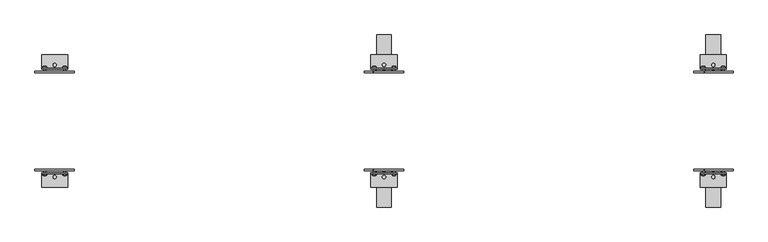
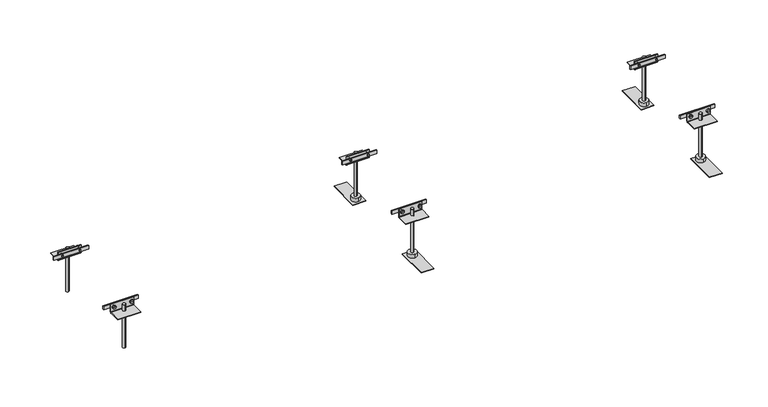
"""IFC4 building model written with IfcOpenShell, lengths in millimetres: proxy geometry, Electrical_Installation_Hager_BKF-Trunking-System-With-Flexible-Screed-Casing-For-Dry-Cleaned-Floors : Nominal Size 250  Length 2.4 m."""

from ifc_helpers import new_model, si_unit, point, frame, frame_2d, origin, place, context, project, spatial, polyline, circle_curve, ellipse_curve, trimmed, segment, composite_curve, outline, extrude, source, transform, mapped, element, save
from ifc_brep_helpers import plane_surface, cylinder_surface, revolved_surface, advanced_brep


def electrical_fixtures_df6a39a7(model_context):
    return source(origin(), model_context, "Body", "SolidModel", [
        advanced_brep(
        [(1629.0575247, -131.6418922, 3.3), (1619.4769168, -131.6418922, 3.3), (1619.4769168, -129.7, 3.3), (1629.0575247, -129.7, 3.3), (1621.7042517, -129.7, 3.3), (1626.8301898, -129.7, 3.3), (1621.7042517, -117.7, 3.3), (1626.8301898, -117.7, 3.3), (1624.2672208, -117.7, 3.3), (1624.2672208, -133.3479209, 3.3)],
        [
            (0, 1, circle_curve(frame((1624.2672208, -131.6418922, 3.3), z_axis=(0.0, 1.0, 0.0), x_axis=(-1.0, 0.0, 0.0)), 4.790304)),
            (1, 2),
            (2, 3, circle_curve(frame((1624.2672208, -129.7, 3.3), z_axis=(0.0, -1.0, 0.0), x_axis=(-1.0, 0.0, 0.0)), 4.790304)),
            (3, 0),
            (1, 0, circle_curve(frame((1624.2672208, -131.6418922, 3.3), z_axis=(0.0, 1.0, 0.0), x_axis=(-1.0, 0.0, 0.0)), 4.790304)),
            (3, 2, circle_curve(frame((1624.2672208, -129.7, 3.3), z_axis=(0.0, -1.0, 0.0), x_axis=(-1.0, 0.0, 0.0)), 4.790304)),
            (2, 4),
            (4, 5, circle_curve(frame((1624.2672208, -129.7, 3.3), z_axis=(0.0, -1.0, 0.0), x_axis=(-1.0, 0.0, 0.0)), 2.562969)),
            (5, 3),
            (5, 4, circle_curve(frame((1624.2672208, -129.7, 3.3), z_axis=(0.0, -1.0, 0.0), x_axis=(-1.0, 0.0, 0.0)), 2.562969)),
            (4, 6),
            (6, 7, circle_curve(frame((1624.2672208, -117.7, 3.3), z_axis=(0.0, -1.0, 0.0), x_axis=(-1.0, 0.0, 0.0)), 2.562969)),
            (7, 5),
            (7, 6, circle_curve(frame((1624.2672208, -117.7, 3.3), z_axis=(0.0, -1.0, 0.0), x_axis=(-1.0, 0.0, 0.0)), 2.562969)),
            (6, 8),
            (8, 7),
            (9, 1, circle_curve(frame((1624.2353142, -125.8592246, 3.3), z_axis=(0.0, 0.0, -1.0), x_axis=(-1.0, 0.0, 0.0)), 7.4887643)),
            (0, 9, circle_curve(frame((1624.2991274, -125.8592246, 3.3), z_axis=(0.0, 0.0, -1.0), x_axis=(1.0, 0.0, 0.0)), 7.4887643)),
        ],
        [
            cylinder_surface(frame((1624.2672208, -129.2950786, 3.3), z_axis=(0.0, -1.0, 0.0), x_axis=(-1.0, 0.0, 0.0)), 4.790304),
            plane_surface(frame((1624.2672208, -129.7, 3.3), z_axis=(0.0, 1.0, 0.0), x_axis=(-1.0, 0.0, 0.0))),
            cylinder_surface(frame((1624.2672208, -129.2950786, 3.3), z_axis=(0.0, -1.0, 0.0), x_axis=(-1.0, 0.0, 0.0)), 2.562969),
            plane_surface(frame((1624.2672208, -117.7, 3.3), z_axis=(0.0, 1.0, 0.0), x_axis=(-1.0, 0.0, 0.0))),
            revolved_surface(trimmed(ellipse_curve(frame((1624.2353142, -125.8592246, 3.3), z_axis=(0.0, 0.0, 1.0), x_axis=(-1.0, 0.0, 0.0)), 7.4887643, 7.4887643), [point((1619.4769168, -131.6418922, 3.3))], [point((1624.2672208, -133.3479209, 3.3))], True, "CARTESIAN"), (1624.2672208, -129.2950786, 3.3), (0.0, -1.0, 0.0)),
        ],
        [
            (0, [[1, 2, 3, 4]]),
            (0, [[5, -4, 6, -2]]),
            (1, [[-3, 7, 8, 9]]),
            (1, [[-6, -9, 10, -7]]),
            (2, [[-8, 11, 12, 13]]),
            (2, [[-10, -13, 14, -11]]),
            (3, [[-12, 15, 16]]),
            (3, [[-14, -16, -15]]),
            (4, [[17, -1, 18]]),
            (4, [[-18, -5, -17]]),
        ],
    ),
        advanced_brep(
        [(1580.790304, -131.6418922, 3.3), (1571.209696, -131.6418922, 3.3), (1571.209696, -129.7, 3.3), (1580.790304, -129.7, 3.3), (1573.437031, -129.7, 3.3), (1578.562969, -129.7, 3.3), (1573.437031, -117.7, 3.3), (1578.562969, -117.7, 3.3), (1576.0, -117.7, 3.3), (1576.0, -133.3479209, 3.3)],
        [
            (0, 1, circle_curve(frame((1576.0, -131.6418922, 3.3), z_axis=(0.0, 1.0, 0.0), x_axis=(-1.0, 0.0, 0.0)), 4.790304)),
            (1, 2),
            (2, 3, circle_curve(frame((1576.0, -129.7, 3.3), z_axis=(0.0, -1.0, 0.0), x_axis=(-1.0, 0.0, 0.0)), 4.790304)),
            (3, 0),
            (1, 0, circle_curve(frame((1576.0, -131.6418922, 3.3), z_axis=(0.0, 1.0, 0.0), x_axis=(-1.0, 0.0, 0.0)), 4.790304)),
            (3, 2, circle_curve(frame((1576.0, -129.7, 3.3), z_axis=(0.0, -1.0, 0.0), x_axis=(-1.0, 0.0, 0.0)), 4.790304)),
            (2, 4),
            (4, 5, circle_curve(frame((1576.0, -129.7, 3.3), z_axis=(0.0, -1.0, 0.0), x_axis=(-1.0, 0.0, 0.0)), 2.562969)),
            (5, 3),
            (5, 4, circle_curve(frame((1576.0, -129.7, 3.3), z_axis=(0.0, -1.0, 0.0), x_axis=(-1.0, 0.0, 0.0)), 2.562969)),
            (4, 6),
            (6, 7, circle_curve(frame((1576.0, -117.7, 3.3), z_axis=(0.0, -1.0, 0.0), x_axis=(-1.0, 0.0, 0.0)), 2.562969)),
            (7, 5),
            (7, 6, circle_curve(frame((1576.0, -117.7, 3.3), z_axis=(0.0, -1.0, 0.0), x_axis=(-1.0, 0.0, 0.0)), 2.562969)),
            (6, 8),
            (8, 7),
            (9, 1, circle_curve(frame((1575.9680934, -125.8592246, 3.3), z_axis=(0.0, 0.0, -1.0), x_axis=(-1.0, 0.0, 0.0)), 7.4887643)),
            (0, 9, circle_curve(frame((1576.0319066, -125.8592246, 3.3), z_axis=(0.0, 0.0, -1.0), x_axis=(1.0, 0.0, 0.0)), 7.4887643)),
        ],
        [
            cylinder_surface(frame((1576.0, -129.2950786, 3.3), z_axis=(0.0, -1.0, 0.0), x_axis=(-1.0, 0.0, 0.0)), 4.790304),
            plane_surface(frame((1576.0, -129.7, 3.3), z_axis=(0.0, 1.0, 0.0), x_axis=(-1.0, 0.0, 0.0))),
            cylinder_surface(frame((1576.0, -129.2950786, 3.3), z_axis=(0.0, -1.0, 0.0), x_axis=(-1.0, 0.0, 0.0)), 2.562969),
            plane_surface(frame((1576.0, -117.7, 3.3), z_axis=(0.0, 1.0, 0.0), x_axis=(-1.0, 0.0, 0.0))),
            revolved_surface(trimmed(ellipse_curve(frame((1575.9680934, -125.8592246, 3.3), z_axis=(0.0, 0.0, 1.0), x_axis=(-1.0, 0.0, 0.0)), 7.4887643, 7.4887643), [point((1571.209696, -131.6418922, 3.3))], [point((1576.0, -133.3479209, 3.3))], True, "CARTESIAN"), (1576.0, -129.2950786, 3.3), (0.0, -1.0, 0.0)),
        ],
        [
            (0, [[1, 2, 3, 4]]),
            (0, [[5, -4, 6, -2]]),
            (1, [[-3, 7, 8, 9]]),
            (1, [[-6, -9, 10, -7]]),
            (2, [[-8, 11, 12, 13]]),
            (2, [[-10, -13, 14, -11]]),
            (3, [[-12, 15, 16]]),
            (3, [[-14, -16, -15]]),
            (4, [[17, -1, 18]]),
            (4, [[-18, -5, -17]]),
        ],
    ),
        advanced_brep(
        [(1629.0575247, 129.7, 3.3), (1619.4769168, 129.7, 3.3), (1619.4769168, 131.6418922, 3.3), (1629.0575247, 131.6418922, 3.3), (1626.8301898, 129.7, 3.3), (1621.7042517, 129.7, 3.3), (1626.8301898, 117.7, 3.3), (1621.7042517, 117.7, 3.3), (1624.2672208, 117.7, 3.3), (1624.2672208, 133.3479209, 3.3)],
        [
            (0, 1, circle_curve(frame((1624.2672208, 129.7, 3.3), z_axis=(0.0, 1.0, 0.0), x_axis=(-1.0, 0.0, 0.0)), 4.790304)),
            (1, 2),
            (2, 3, circle_curve(frame((1624.2672208, 131.6418922, 3.3), z_axis=(0.0, -1.0, 0.0), x_axis=(-1.0, 0.0, 0.0)), 4.790304)),
            (3, 0),
            (1, 0, circle_curve(frame((1624.2672208, 129.7, 3.3), z_axis=(0.0, 1.0, 0.0), x_axis=(-1.0, 0.0, 0.0)), 4.790304)),
            (3, 2, circle_curve(frame((1624.2672208, 131.6418922, 3.3), z_axis=(0.0, -1.0, 0.0), x_axis=(-1.0, 0.0, 0.0)), 4.790304)),
            (4, 5, circle_curve(frame((1624.2672208, 129.7, 3.3), z_axis=(0.0, 1.0, 0.0), x_axis=(-1.0, 0.0, 0.0)), 2.562969)),
            (5, 1),
            (0, 4),
            (5, 4, circle_curve(frame((1624.2672208, 129.7, 3.3), z_axis=(0.0, 1.0, 0.0), x_axis=(-1.0, 0.0, 0.0)), 2.562969)),
            (6, 7, circle_curve(frame((1624.2672208, 117.7, 3.3), z_axis=(0.0, 1.0, 0.0), x_axis=(-1.0, 0.0, 0.0)), 2.562969)),
            (7, 5),
            (4, 6),
            (7, 6, circle_curve(frame((1624.2672208, 117.7, 3.3), z_axis=(0.0, 1.0, 0.0), x_axis=(-1.0, 0.0, 0.0)), 2.562969)),
            (8, 7),
            (6, 8),
            (2, 9, circle_curve(frame((1624.2353142, 125.8592246, 3.3), z_axis=(0.0, 0.0, -1.0), x_axis=(-1.0, 0.0, 0.0)), 7.4887643)),
            (9, 3, circle_curve(frame((1624.2991274, 125.8592246, 3.3), z_axis=(0.0, 0.0, -1.0), x_axis=(1.0, 0.0, 0.0)), 7.4887643)),
        ],
        [
            cylinder_surface(frame((1624.2672208, 129.2950786, 3.3), z_axis=(0.0, -1.0, 0.0), x_axis=(-1.0, 0.0, 0.0)), 4.790304),
            plane_surface(frame((1624.2672208, 129.7, 3.3), z_axis=(0.0, -1.0, 0.0), x_axis=(-1.0, 0.0, 0.0))),
            cylinder_surface(frame((1624.2672208, 129.2950786, 3.3), z_axis=(0.0, -1.0, 0.0), x_axis=(-1.0, 0.0, 0.0)), 2.562969),
            plane_surface(frame((1624.2672208, 117.7, 3.3), z_axis=(0.0, -1.0, 0.0), x_axis=(-1.0, 0.0, 0.0))),
            revolved_surface(trimmed(ellipse_curve(frame((1624.2353142, 125.8592246, 3.3), z_axis=(0.0, 0.0, 1.0), x_axis=(-1.0, 0.0, 0.0)), 7.4887643, 7.4887643), [point((1624.2672208, 133.3479209, 3.3))], [point((1619.4769168, 131.6418922, 3.3))], True, "CARTESIAN"), (1624.2672208, 129.2950786, 3.3), (0.0, -1.0, 0.0)),
        ],
        [
            (0, [[1, 2, 3, 4]]),
            (0, [[5, -4, 6, -2]]),
            (1, [[7, 8, -1, 9]]),
            (1, [[10, -9, -5, -8]]),
            (2, [[11, 12, -7, 13]]),
            (2, [[14, -13, -10, -12]]),
            (3, [[15, -11, 16]]),
            (3, [[-16, -14, -15]]),
            (4, [[-3, 17, 18]]),
            (4, [[-6, -18, -17]]),
        ],
    ),
        advanced_brep(
        [(1580.790304, 129.7, 3.3), (1571.209696, 129.7, 3.3), (1571.209696, 131.6418922, 3.3), (1580.790304, 131.6418922, 3.3), (1578.562969, 129.7, 3.3), (1573.437031, 129.7, 3.3), (1578.562969, 117.7, 3.3), (1573.437031, 117.7, 3.3), (1576.0, 117.7, 3.3), (1576.0, 133.3479209, 3.3)],
        [
            (0, 1, circle_curve(frame((1576.0, 129.7, 3.3), z_axis=(0.0, 1.0, 0.0), x_axis=(-1.0, 0.0, 0.0)), 4.790304)),
            (1, 2),
            (2, 3, circle_curve(frame((1576.0, 131.6418922, 3.3), z_axis=(0.0, -1.0, 0.0), x_axis=(-1.0, 0.0, 0.0)), 4.790304)),
            (3, 0),
            (1, 0, circle_curve(frame((1576.0, 129.7, 3.3), z_axis=(0.0, 1.0, 0.0), x_axis=(-1.0, 0.0, 0.0)), 4.790304)),
            (3, 2, circle_curve(frame((1576.0, 131.6418922, 3.3), z_axis=(0.0, -1.0, 0.0), x_axis=(-1.0, 0.0, 0.0)), 4.790304)),
            (4, 5, circle_curve(frame((1576.0, 129.7, 3.3), z_axis=(0.0, 1.0, 0.0), x_axis=(-1.0, 0.0, 0.0)), 2.562969)),
            (5, 1),
            (0, 4),
            (5, 4, circle_curve(frame((1576.0, 129.7, 3.3), z_axis=(0.0, 1.0, 0.0), x_axis=(-1.0, 0.0, 0.0)), 2.562969)),
            (6, 7, circle_curve(frame((1576.0, 117.7, 3.3), z_axis=(0.0, 1.0, 0.0), x_axis=(-1.0, 0.0, 0.0)), 2.562969)),
            (7, 5),
            (4, 6),
            (7, 6, circle_curve(frame((1576.0, 117.7, 3.3), z_axis=(0.0, 1.0, 0.0), x_axis=(-1.0, 0.0, 0.0)), 2.562969)),
            (8, 7),
            (6, 8),
            (2, 9, circle_curve(frame((1575.9680934, 125.8592246, 3.3), z_axis=(0.0, 0.0, -1.0), x_axis=(-1.0, 0.0, 0.0)), 7.4887643)),
            (9, 3, circle_curve(frame((1576.0319066, 125.8592246, 3.3), z_axis=(0.0, 0.0, -1.0), x_axis=(1.0, 0.0, 0.0)), 7.4887643)),
        ],
        [
            cylinder_surface(frame((1576.0, 129.2950786, 3.3), z_axis=(0.0, -1.0, 0.0), x_axis=(-1.0, 0.0, 0.0)), 4.790304),
            plane_surface(frame((1576.0, 129.7, 3.3), z_axis=(0.0, -1.0, 0.0), x_axis=(-1.0, 0.0, 0.0))),
            cylinder_surface(frame((1576.0, 129.2950786, 3.3), z_axis=(0.0, -1.0, 0.0), x_axis=(-1.0, 0.0, 0.0)), 2.562969),
            plane_surface(frame((1576.0, 117.7, 3.3), z_axis=(0.0, -1.0, 0.0), x_axis=(-1.0, 0.0, 0.0))),
            revolved_surface(trimmed(ellipse_curve(frame((1575.9680934, 125.8592246, 3.3), z_axis=(0.0, 0.0, 1.0), x_axis=(-1.0, 0.0, 0.0)), 7.4887643, 7.4887643), [point((1576.0, 133.3479209, 3.3))], [point((1571.209696, 131.6418922, 3.3))], True, "CARTESIAN"), (1576.0, 129.2950786, 3.3), (0.0, -1.0, 0.0)),
        ],
        [
            (0, [[1, 2, 3, 4]]),
            (0, [[5, -4, 6, -2]]),
            (1, [[7, 8, -1, 9]]),
            (1, [[10, -9, -5, -8]]),
            (2, [[11, 12, -7, 13]]),
            (2, [[14, -13, -10, -12]]),
            (3, [[15, -11, 16]]),
            (3, [[-16, -14, -15]]),
            (4, [[-3, 17, 18]]),
            (4, [[-6, -18, -17]]),
        ],
    ),
        extrude(outline(polyline([(1552.0, 117.7), (1552.0, 120.7), (1648.0, 120.7), (1648.0, 117.7), (1552.0, 117.7)])), frame((0.0, 0.0, -1.7), z_axis=(0.0, 0.0, 1.0), x_axis=(1.0, 0.0, 0.0)), (0.0, 0.0, 1.0), 10.0),
        extrude(outline(polyline([(1552.0, -120.7), (1552.0, -117.7), (1648.0, -117.7), (1648.0, -120.7), (1552.0, -120.7)])), frame((0.0, 0.0, -1.7), z_axis=(0.0, 0.0, 1.0), x_axis=(1.0, 0.0, 0.0)), (0.0, 0.0, 1.0), 10.0),
        extrude(outline(composite_curve([segment(polyline([(125.6, 11.7), (127.6, 11.7), (127.6, -10.3088822)]), True, "CONTINUOUS"), segment(trimmed(circle_curve(frame_2d((128.5911178, -10.3088822)), 0.9911178), [point((127.6, -10.3088822))], [point((128.5911178, -11.3))], True, "CARTESIAN"), True, "CONTINUOUS"), segment(polyline([(128.5911178, -11.3), (160.6, -11.3), (160.6, -13.3), (128.6002521, -13.3)]), True, "CONTINUOUS"), segment(trimmed(circle_curve(frame_2d((128.6002521, -10.2997479)), 3.0002521), [point((128.6002521, -13.3))], [point((125.6, -10.2997479))], False, "CARTESIAN"), True, "CONTINUOUS"), segment(polyline([(125.6, -10.2997479), (125.6, 11.7)]), True, "CONTINUOUS")], self_intersect=False)), frame((1568.3, 0.0, 0.0), z_axis=(1.0, 0.0, 0.0), x_axis=(0.0, 1.0, 0.0)), (0.0, 0.0, 1.0), 63.4),
        extrude(outline(composite_curve([segment(polyline([(-125.6, 11.7), (-125.6, -10.2997479)]), True, "CONTINUOUS"), segment(trimmed(circle_curve(frame_2d((-128.6002521, -10.2997479)), 3.0002521), [point((-125.6, -10.2997479))], [point((-128.6002521, -13.3))], False, "CARTESIAN"), True, "CONTINUOUS"), segment(polyline([(-128.6002521, -13.3), (-160.6, -13.3), (-160.6, -11.3), (-128.5911178, -11.3)]), True, "CONTINUOUS"), segment(trimmed(circle_curve(frame_2d((-128.5911178, -10.3088822)), 0.9911178), [point((-128.5911178, -11.3))], [point((-127.6, -10.3088822))], True, "CARTESIAN"), True, "CONTINUOUS"), segment(polyline([(-127.6, -10.3088822), (-127.6, 11.7), (-125.6, 11.7)]), True, "CONTINUOUS")], self_intersect=False)), frame((1568.3, 0.0, 0.0), z_axis=(1.0, 0.0, 0.0), x_axis=(0.0, 1.0, 0.0)), (0.0, 0.0, 1.0), 63.4),
        extrude(outline(composite_curve([segment(trimmed(circle_curve(frame_2d((1600.0, 136.1712378)), 3.9923162), [point((1600.0, 140.163554))], [point((1600.0, 132.1789216))], False, "CARTESIAN"), True, "CONTINUOUS"), segment(trimmed(circle_curve(frame_2d((1600.0, 136.1712378)), 3.9923162), [point((1600.0, 132.1789216))], [point((1600.0, 140.163554))], False, "CARTESIAN"), True, "CONTINUOUS")], self_intersect=False)), frame((0.0, 0.0, -119.0), z_axis=(0.0, 0.0, 1.0), x_axis=(1.0, 0.0, 0.0)), (0.0, 0.0, 1.0), 126.8),
        extrude(outline(composite_curve([segment(trimmed(circle_curve(frame_2d((1600.0, -136.0787011)), 3.991847), [point((1600.0, -132.0868541))], [point((1600.0, -140.0705482))], False, "CARTESIAN"), True, "CONTINUOUS"), segment(trimmed(circle_curve(frame_2d((1600.0, -136.0787011)), 3.991847), [point((1600.0, -140.0705482))], [point((1600.0, -132.0868541))], False, "CARTESIAN"), True, "CONTINUOUS")], self_intersect=False)), frame((0.0, 0.0, -119.0), z_axis=(0.0, 0.0, 1.0), x_axis=(1.0, 0.0, 0.0)), (0.0, 0.0, 1.0), 126.8),
        extrude(outline(composite_curve([segment(trimmed(circle_curve(frame_2d((1600.0, 136.1652527)), 12.0), [point((1600.0, 148.1652527))], [point((1600.0, 124.1652527))], False, "CARTESIAN"), True, "CONTINUOUS"), segment(trimmed(circle_curve(frame_2d((1600.0, 136.1652527)), 12.0), [point((1600.0, 124.1652527))], [point((1600.0, 148.1652527))], False, "CARTESIAN"), True, "CONTINUOUS")], self_intersect=False)), frame((0.0, 0.0, -129.7), z_axis=(0.0, 0.0, 1.0), x_axis=(1.0, 0.0, 0.0)), (0.0, 0.0, 1.0), 10.7),
        extrude(outline(composite_curve([segment(trimmed(circle_curve(frame_2d((1600.0, -136.112037)), 12.0), [point((1600.0, -124.112037))], [point((1600.0, -148.112037))], False, "CARTESIAN"), True, "CONTINUOUS"), segment(trimmed(circle_curve(frame_2d((1600.0, -136.112037)), 12.0), [point((1600.0, -148.112037))], [point((1600.0, -124.112037))], False, "CARTESIAN"), True, "CONTINUOUS")], self_intersect=False)), frame((0.0, 0.0, -129.7), z_axis=(0.0, 0.0, 1.0), x_axis=(1.0, 0.0, 0.0)), (0.0, 0.0, 1.0), 10.7),
        extrude(outline(polyline([(1618.0, 119.1), (1582.0, 119.1), (1582.0, 209.1), (1618.0, 209.1), (1618.0, 119.1)])), frame((0.0, 0.0, -131.2), z_axis=(0.0, 0.0, 1.0), x_axis=(1.0, 0.0, 0.0)), (0.0, 0.0, 1.0), 1.5),
        extrude(outline(polyline([(1618.0, -209.1), (1582.0, -209.1), (1582.0, -119.1), (1618.0, -119.1), (1618.0, -209.1)])), frame((0.0, 0.0, -131.2), z_axis=(0.0, 0.0, 1.0), x_axis=(1.0, 0.0, 0.0)), (0.0, 0.0, 1.0), 1.5),
        advanced_brep(
        [(829.0575247, -131.6418922, 3.3), (819.4769168, -131.6418922, 3.3), (819.4769168, -129.7, 3.3), (829.0575247, -129.7, 3.3), (821.7042517, -129.7, 3.3), (826.8301898, -129.7, 3.3), (821.7042517, -117.7, 3.3), (826.8301898, -117.7, 3.3), (824.2672208, -117.7, 3.3), (824.2672208, -133.3479209, 3.3)],
        [
            (0, 1, circle_curve(frame((824.2672208, -131.6418922, 3.3), z_axis=(0.0, 1.0, 0.0), x_axis=(-1.0, 0.0, 0.0)), 4.790304)),
            (1, 2),
            (2, 3, circle_curve(frame((824.2672208, -129.7, 3.3), z_axis=(0.0, -1.0, 0.0), x_axis=(-1.0, 0.0, 0.0)), 4.790304)),
            (3, 0),
            (1, 0, circle_curve(frame((824.2672208, -131.6418922, 3.3), z_axis=(0.0, 1.0, 0.0), x_axis=(-1.0, 0.0, 0.0)), 4.790304)),
            (3, 2, circle_curve(frame((824.2672208, -129.7, 3.3), z_axis=(0.0, -1.0, 0.0), x_axis=(-1.0, 0.0, 0.0)), 4.790304)),
            (2, 4),
            (4, 5, circle_curve(frame((824.2672208, -129.7, 3.3), z_axis=(0.0, -1.0, 0.0), x_axis=(-1.0, 0.0, 0.0)), 2.562969)),
            (5, 3),
            (5, 4, circle_curve(frame((824.2672208, -129.7, 3.3), z_axis=(0.0, -1.0, 0.0), x_axis=(-1.0, 0.0, 0.0)), 2.562969)),
            (4, 6),
            (6, 7, circle_curve(frame((824.2672208, -117.7, 3.3), z_axis=(0.0, -1.0, 0.0), x_axis=(-1.0, 0.0, 0.0)), 2.562969)),
            (7, 5),
            (7, 6, circle_curve(frame((824.2672208, -117.7, 3.3), z_axis=(0.0, -1.0, 0.0), x_axis=(-1.0, 0.0, 0.0)), 2.562969)),
            (6, 8),
            (8, 7),
            (9, 1, circle_curve(frame((824.2353142, -125.8592246, 3.3), z_axis=(0.0, 0.0, -1.0), x_axis=(-1.0, 0.0, 0.0)), 7.4887643)),
            (0, 9, circle_curve(frame((824.2991274, -125.8592246, 3.3), z_axis=(0.0, 0.0, -1.0), x_axis=(1.0, 0.0, 0.0)), 7.4887643)),
        ],
        [
            cylinder_surface(frame((824.2672208, -129.2950786, 3.3), z_axis=(0.0, -1.0, 0.0), x_axis=(-1.0, 0.0, 0.0)), 4.790304),
            plane_surface(frame((824.2672208, -129.7, 3.3), z_axis=(0.0, 1.0, 0.0), x_axis=(-1.0, 0.0, 0.0))),
            cylinder_surface(frame((824.2672208, -129.2950786, 3.3), z_axis=(0.0, -1.0, 0.0), x_axis=(-1.0, 0.0, 0.0)), 2.562969),
            plane_surface(frame((824.2672208, -117.7, 3.3), z_axis=(0.0, 1.0, 0.0), x_axis=(-1.0, 0.0, 0.0))),
            revolved_surface(trimmed(ellipse_curve(frame((824.2353142, -125.8592246, 3.3), z_axis=(0.0, 0.0, 1.0), x_axis=(-1.0, 0.0, 0.0)), 7.4887643, 7.4887643), [point((819.4769168, -131.6418922, 3.3))], [point((824.2672208, -133.3479209, 3.3))], True, "CARTESIAN"), (824.2672208, -129.2950786, 3.3), (0.0, -1.0, 0.0)),
        ],
        [
            (0, [[1, 2, 3, 4]]),
            (0, [[5, -4, 6, -2]]),
            (1, [[-3, 7, 8, 9]]),
            (1, [[-6, -9, 10, -7]]),
            (2, [[-8, 11, 12, 13]]),
            (2, [[-10, -13, 14, -11]]),
            (3, [[-12, 15, 16]]),
            (3, [[-14, -16, -15]]),
            (4, [[17, -1, 18]]),
            (4, [[-18, -5, -17]]),
        ],
    ),
        advanced_brep(
        [(780.790304, -131.6418922, 3.3), (771.209696, -131.6418922, 3.3), (771.209696, -129.7, 3.3), (780.790304, -129.7, 3.3), (773.437031, -129.7, 3.3), (778.562969, -129.7, 3.3), (773.437031, -117.7, 3.3), (778.562969, -117.7, 3.3), (776.0, -117.7, 3.3), (776.0, -133.3479209, 3.3)],
        [
            (0, 1, circle_curve(frame((776.0, -131.6418922, 3.3), z_axis=(0.0, 1.0, 0.0), x_axis=(-1.0, 0.0, 0.0)), 4.790304)),
            (1, 2),
            (2, 3, circle_curve(frame((776.0, -129.7, 3.3), z_axis=(0.0, -1.0, 0.0), x_axis=(-1.0, 0.0, 0.0)), 4.790304)),
            (3, 0),
            (1, 0, circle_curve(frame((776.0, -131.6418922, 3.3), z_axis=(0.0, 1.0, 0.0), x_axis=(-1.0, 0.0, 0.0)), 4.790304)),
            (3, 2, circle_curve(frame((776.0, -129.7, 3.3), z_axis=(0.0, -1.0, 0.0), x_axis=(-1.0, 0.0, 0.0)), 4.790304)),
            (2, 4),
            (4, 5, circle_curve(frame((776.0, -129.7, 3.3), z_axis=(0.0, -1.0, 0.0), x_axis=(-1.0, 0.0, 0.0)), 2.562969)),
            (5, 3),
            (5, 4, circle_curve(frame((776.0, -129.7, 3.3), z_axis=(0.0, -1.0, 0.0), x_axis=(-1.0, 0.0, 0.0)), 2.562969)),
            (4, 6),
            (6, 7, circle_curve(frame((776.0, -117.7, 3.3), z_axis=(0.0, -1.0, 0.0), x_axis=(-1.0, 0.0, 0.0)), 2.562969)),
            (7, 5),
            (7, 6, circle_curve(frame((776.0, -117.7, 3.3), z_axis=(0.0, -1.0, 0.0), x_axis=(-1.0, 0.0, 0.0)), 2.562969)),
            (6, 8),
            (8, 7),
            (9, 1, circle_curve(frame((775.9680934, -125.8592246, 3.3), z_axis=(0.0, 0.0, -1.0), x_axis=(-1.0, 0.0, 0.0)), 7.4887643)),
            (0, 9, circle_curve(frame((776.0319066, -125.8592246, 3.3), z_axis=(0.0, 0.0, -1.0), x_axis=(1.0, 0.0, 0.0)), 7.4887643)),
        ],
        [
            cylinder_surface(frame((776.0, -129.2950786, 3.3), z_axis=(0.0, -1.0, 0.0), x_axis=(-1.0, 0.0, 0.0)), 4.790304),
            plane_surface(frame((776.0, -129.7, 3.3), z_axis=(0.0, 1.0, 0.0), x_axis=(-1.0, 0.0, 0.0))),
            cylinder_surface(frame((776.0, -129.2950786, 3.3), z_axis=(0.0, -1.0, 0.0), x_axis=(-1.0, 0.0, 0.0)), 2.562969),
            plane_surface(frame((776.0, -117.7, 3.3), z_axis=(0.0, 1.0, 0.0), x_axis=(-1.0, 0.0, 0.0))),
            revolved_surface(trimmed(ellipse_curve(frame((775.9680934, -125.8592246, 3.3), z_axis=(0.0, 0.0, 1.0), x_axis=(-1.0, 0.0, 0.0)), 7.4887643, 7.4887643), [point((771.209696, -131.6418922, 3.3))], [point((776.0, -133.3479209, 3.3))], True, "CARTESIAN"), (776.0, -129.2950786, 3.3), (0.0, -1.0, 0.0)),
        ],
        [
            (0, [[1, 2, 3, 4]]),
            (0, [[5, -4, 6, -2]]),
            (1, [[-3, 7, 8, 9]]),
            (1, [[-6, -9, 10, -7]]),
            (2, [[-8, 11, 12, 13]]),
            (2, [[-10, -13, 14, -11]]),
            (3, [[-12, 15, 16]]),
            (3, [[-14, -16, -15]]),
            (4, [[17, -1, 18]]),
            (4, [[-18, -5, -17]]),
        ],
    ),
        advanced_brep(
        [(829.0575247, 129.7, 3.3), (819.4769168, 129.7, 3.3), (819.4769168, 131.6418922, 3.3), (829.0575247, 131.6418922, 3.3), (826.8301898, 129.7, 3.3), (821.7042517, 129.7, 3.3), (826.8301898, 117.7, 3.3), (821.7042517, 117.7, 3.3), (824.2672208, 117.7, 3.3), (824.2672208, 133.3479209, 3.3)],
        [
            (0, 1, circle_curve(frame((824.2672208, 129.7, 3.3), z_axis=(0.0, 1.0, 0.0), x_axis=(-1.0, 0.0, 0.0)), 4.790304)),
            (1, 2),
            (2, 3, circle_curve(frame((824.2672208, 131.6418922, 3.3), z_axis=(0.0, -1.0, 0.0), x_axis=(-1.0, 0.0, 0.0)), 4.790304)),
            (3, 0),
            (1, 0, circle_curve(frame((824.2672208, 129.7, 3.3), z_axis=(0.0, 1.0, 0.0), x_axis=(-1.0, 0.0, 0.0)), 4.790304)),
            (3, 2, circle_curve(frame((824.2672208, 131.6418922, 3.3), z_axis=(0.0, -1.0, 0.0), x_axis=(-1.0, 0.0, 0.0)), 4.790304)),
            (4, 5, circle_curve(frame((824.2672208, 129.7, 3.3), z_axis=(0.0, 1.0, 0.0), x_axis=(-1.0, 0.0, 0.0)), 2.562969)),
            (5, 1),
            (0, 4),
            (5, 4, circle_curve(frame((824.2672208, 129.7, 3.3), z_axis=(0.0, 1.0, 0.0), x_axis=(-1.0, 0.0, 0.0)), 2.562969)),
            (6, 7, circle_curve(frame((824.2672208, 117.7, 3.3), z_axis=(0.0, 1.0, 0.0), x_axis=(-1.0, 0.0, 0.0)), 2.562969)),
            (7, 5),
            (4, 6),
            (7, 6, circle_curve(frame((824.2672208, 117.7, 3.3), z_axis=(0.0, 1.0, 0.0), x_axis=(-1.0, 0.0, 0.0)), 2.562969)),
            (8, 7),
            (6, 8),
            (2, 9, circle_curve(frame((824.2353142, 125.8592246, 3.3), z_axis=(0.0, 0.0, -1.0), x_axis=(-1.0, 0.0, 0.0)), 7.4887643)),
            (9, 3, circle_curve(frame((824.2991274, 125.8592246, 3.3), z_axis=(0.0, 0.0, -1.0), x_axis=(1.0, 0.0, 0.0)), 7.4887643)),
        ],
        [
            cylinder_surface(frame((824.2672208, 129.2950786, 3.3), z_axis=(0.0, -1.0, 0.0), x_axis=(-1.0, 0.0, 0.0)), 4.790304),
            plane_surface(frame((824.2672208, 129.7, 3.3), z_axis=(0.0, -1.0, 0.0), x_axis=(-1.0, 0.0, 0.0))),
            cylinder_surface(frame((824.2672208, 129.2950786, 3.3), z_axis=(0.0, -1.0, 0.0), x_axis=(-1.0, 0.0, 0.0)), 2.562969),
            plane_surface(frame((824.2672208, 117.7, 3.3), z_axis=(0.0, -1.0, 0.0), x_axis=(-1.0, 0.0, 0.0))),
            revolved_surface(trimmed(ellipse_curve(frame((824.2353142, 125.8592246, 3.3), z_axis=(0.0, 0.0, 1.0), x_axis=(-1.0, 0.0, 0.0)), 7.4887643, 7.4887643), [point((824.2672208, 133.3479209, 3.3))], [point((819.4769168, 131.6418922, 3.3))], True, "CARTESIAN"), (824.2672208, 129.2950786, 3.3), (0.0, -1.0, 0.0)),
        ],
        [
            (0, [[1, 2, 3, 4]]),
            (0, [[5, -4, 6, -2]]),
            (1, [[7, 8, -1, 9]]),
            (1, [[10, -9, -5, -8]]),
            (2, [[11, 12, -7, 13]]),
            (2, [[14, -13, -10, -12]]),
            (3, [[15, -11, 16]]),
            (3, [[-16, -14, -15]]),
            (4, [[-3, 17, 18]]),
            (4, [[-6, -18, -17]]),
        ],
    ),
        advanced_brep(
        [(780.790304, 129.7, 3.3), (771.209696, 129.7, 3.3), (771.209696, 131.6418922, 3.3), (780.790304, 131.6418922, 3.3), (778.562969, 129.7, 3.3), (773.437031, 129.7, 3.3), (778.562969, 117.7, 3.3), (773.437031, 117.7, 3.3), (776.0, 117.7, 3.3), (776.0, 133.3479209, 3.3)],
        [
            (0, 1, circle_curve(frame((776.0, 129.7, 3.3), z_axis=(0.0, 1.0, 0.0), x_axis=(-1.0, 0.0, 0.0)), 4.790304)),
            (1, 2),
            (2, 3, circle_curve(frame((776.0, 131.6418922, 3.3), z_axis=(0.0, -1.0, 0.0), x_axis=(-1.0, 0.0, 0.0)), 4.790304)),
            (3, 0),
            (1, 0, circle_curve(frame((776.0, 129.7, 3.3), z_axis=(0.0, 1.0, 0.0), x_axis=(-1.0, 0.0, 0.0)), 4.790304)),
            (3, 2, circle_curve(frame((776.0, 131.6418922, 3.3), z_axis=(0.0, -1.0, 0.0), x_axis=(-1.0, 0.0, 0.0)), 4.790304)),
            (4, 5, circle_curve(frame((776.0, 129.7, 3.3), z_axis=(0.0, 1.0, 0.0), x_axis=(-1.0, 0.0, 0.0)), 2.562969)),
            (5, 1),
            (0, 4),
            (5, 4, circle_curve(frame((776.0, 129.7, 3.3), z_axis=(0.0, 1.0, 0.0), x_axis=(-1.0, 0.0, 0.0)), 2.562969)),
            (6, 7, circle_curve(frame((776.0, 117.7, 3.3), z_axis=(0.0, 1.0, 0.0), x_axis=(-1.0, 0.0, 0.0)), 2.562969)),
            (7, 5),
            (4, 6),
            (7, 6, circle_curve(frame((776.0, 117.7, 3.3), z_axis=(0.0, 1.0, 0.0), x_axis=(-1.0, 0.0, 0.0)), 2.562969)),
            (8, 7),
            (6, 8),
            (2, 9, circle_curve(frame((775.9680934, 125.8592246, 3.3), z_axis=(0.0, 0.0, -1.0), x_axis=(-1.0, 0.0, 0.0)), 7.4887643)),
            (9, 3, circle_curve(frame((776.0319066, 125.8592246, 3.3), z_axis=(0.0, 0.0, -1.0), x_axis=(1.0, 0.0, 0.0)), 7.4887643)),
        ],
        [
            cylinder_surface(frame((776.0, 129.2950786, 3.3), z_axis=(0.0, -1.0, 0.0), x_axis=(-1.0, 0.0, 0.0)), 4.790304),
            plane_surface(frame((776.0, 129.7, 3.3), z_axis=(0.0, -1.0, 0.0), x_axis=(-1.0, 0.0, 0.0))),
            cylinder_surface(frame((776.0, 129.2950786, 3.3), z_axis=(0.0, -1.0, 0.0), x_axis=(-1.0, 0.0, 0.0)), 2.562969),
            plane_surface(frame((776.0, 117.7, 3.3), z_axis=(0.0, -1.0, 0.0), x_axis=(-1.0, 0.0, 0.0))),
            revolved_surface(trimmed(ellipse_curve(frame((775.9680934, 125.8592246, 3.3), z_axis=(0.0, 0.0, 1.0), x_axis=(-1.0, 0.0, 0.0)), 7.4887643, 7.4887643), [point((776.0, 133.3479209, 3.3))], [point((771.209696, 131.6418922, 3.3))], True, "CARTESIAN"), (776.0, 129.2950786, 3.3), (0.0, -1.0, 0.0)),
        ],
        [
            (0, [[1, 2, 3, 4]]),
            (0, [[5, -4, 6, -2]]),
            (1, [[7, 8, -1, 9]]),
            (1, [[10, -9, -5, -8]]),
            (2, [[11, 12, -7, 13]]),
            (2, [[14, -13, -10, -12]]),
            (3, [[15, -11, 16]]),
            (3, [[-16, -14, -15]]),
            (4, [[-3, 17, 18]]),
            (4, [[-6, -18, -17]]),
        ],
    ),
        extrude(outline(polyline([(752.0, 117.7), (752.0, 120.7), (848.0, 120.7), (848.0, 117.7), (752.0, 117.7)])), frame((0.0, 0.0, -1.7), z_axis=(0.0, 0.0, 1.0), x_axis=(1.0, 0.0, 0.0)), (0.0, 0.0, 1.0), 10.0),
        extrude(outline(polyline([(752.0, -120.7), (752.0, -117.7), (848.0, -117.7), (848.0, -120.7), (752.0, -120.7)])), frame((0.0, 0.0, -1.7), z_axis=(0.0, 0.0, 1.0), x_axis=(1.0, 0.0, 0.0)), (0.0, 0.0, 1.0), 10.0),
        extrude(outline(composite_curve([segment(polyline([(125.6, 11.7), (127.6, 11.7), (127.6, -10.3088822)]), True, "CONTINUOUS"), segment(trimmed(circle_curve(frame_2d((128.5911178, -10.3088822)), 0.9911178), [point((127.6, -10.3088822))], [point((128.5911178, -11.3))], True, "CARTESIAN"), True, "CONTINUOUS"), segment(polyline([(128.5911178, -11.3), (160.6, -11.3), (160.6, -13.3), (128.6002521, -13.3)]), True, "CONTINUOUS"), segment(trimmed(circle_curve(frame_2d((128.6002521, -10.2997479)), 3.0002521), [point((128.6002521, -13.3))], [point((125.6, -10.2997479))], False, "CARTESIAN"), True, "CONTINUOUS"), segment(polyline([(125.6, -10.2997479), (125.6, 11.7)]), True, "CONTINUOUS")], self_intersect=False)), frame((768.3, 0.0, 0.0), z_axis=(1.0, 0.0, 0.0), x_axis=(0.0, 1.0, 0.0)), (0.0, 0.0, 1.0), 63.4),
        extrude(outline(composite_curve([segment(polyline([(-125.6, 11.7), (-125.6, -10.2997479)]), True, "CONTINUOUS"), segment(trimmed(circle_curve(frame_2d((-128.6002521, -10.2997479)), 3.0002521), [point((-125.6, -10.2997479))], [point((-128.6002521, -13.3))], False, "CARTESIAN"), True, "CONTINUOUS"), segment(polyline([(-128.6002521, -13.3), (-160.6, -13.3), (-160.6, -11.3), (-128.5911178, -11.3)]), True, "CONTINUOUS"), segment(trimmed(circle_curve(frame_2d((-128.5911178, -10.3088822)), 0.9911178), [point((-128.5911178, -11.3))], [point((-127.6, -10.3088822))], True, "CARTESIAN"), True, "CONTINUOUS"), segment(polyline([(-127.6, -10.3088822), (-127.6, 11.7), (-125.6, 11.7)]), True, "CONTINUOUS")], self_intersect=False)), frame((768.3, 0.0, 0.0), z_axis=(1.0, 0.0, 0.0), x_axis=(0.0, 1.0, 0.0)), (0.0, 0.0, 1.0), 63.4),
        extrude(outline(composite_curve([segment(trimmed(circle_curve(frame_2d((800.0, 136.1712378)), 3.9923162), [point((800.0, 140.163554))], [point((800.0, 132.1789216))], False, "CARTESIAN"), True, "CONTINUOUS"), segment(trimmed(circle_curve(frame_2d((800.0, 136.1712378)), 3.9923162), [point((800.0, 132.1789216))], [point((800.0, 140.163554))], False, "CARTESIAN"), True, "CONTINUOUS")], self_intersect=False)), frame((0.0, 0.0, -119.0), z_axis=(0.0, 0.0, 1.0), x_axis=(1.0, 0.0, 0.0)), (0.0, 0.0, 1.0), 126.8),
        extrude(outline(composite_curve([segment(trimmed(circle_curve(frame_2d((800.0, -136.0787011)), 3.991847), [point((800.0, -132.0868541))], [point((800.0, -140.0705482))], False, "CARTESIAN"), True, "CONTINUOUS"), segment(trimmed(circle_curve(frame_2d((800.0, -136.0787011)), 3.991847), [point((800.0, -140.0705482))], [point((800.0, -132.0868541))], False, "CARTESIAN"), True, "CONTINUOUS")], self_intersect=False)), frame((0.0, 0.0, -119.0), z_axis=(0.0, 0.0, 1.0), x_axis=(1.0, 0.0, 0.0)), (0.0, 0.0, 1.0), 126.8),
        extrude(outline(composite_curve([segment(trimmed(circle_curve(frame_2d((800.0, 136.1652527)), 12.0), [point((800.0, 148.1652527))], [point((800.0, 124.1652527))], False, "CARTESIAN"), True, "CONTINUOUS"), segment(trimmed(circle_curve(frame_2d((800.0, 136.1652527)), 12.0), [point((800.0, 124.1652527))], [point((800.0, 148.1652527))], False, "CARTESIAN"), True, "CONTINUOUS")], self_intersect=False)), frame((0.0, 0.0, -129.7), z_axis=(0.0, 0.0, 1.0), x_axis=(1.0, 0.0, 0.0)), (0.0, 0.0, 1.0), 10.7),
        extrude(outline(composite_curve([segment(trimmed(circle_curve(frame_2d((800.0, -136.112037)), 12.0), [point((800.0, -124.112037))], [point((800.0, -148.112037))], False, "CARTESIAN"), True, "CONTINUOUS"), segment(trimmed(circle_curve(frame_2d((800.0, -136.112037)), 12.0), [point((800.0, -148.112037))], [point((800.0, -124.112037))], False, "CARTESIAN"), True, "CONTINUOUS")], self_intersect=False)), frame((0.0, 0.0, -129.7), z_axis=(0.0, 0.0, 1.0), x_axis=(1.0, 0.0, 0.0)), (0.0, 0.0, 1.0), 10.7),
        extrude(outline(polyline([(818.0, 119.1), (782.0, 119.1), (782.0, 209.1), (818.0, 209.1), (818.0, 119.1)])), frame((0.0, 0.0, -131.2), z_axis=(0.0, 0.0, 1.0), x_axis=(1.0, 0.0, 0.0)), (0.0, 0.0, 1.0), 1.5),
        extrude(outline(polyline([(818.0, -209.1), (782.0, -209.1), (782.0, -119.1), (818.0, -119.1), (818.0, -209.1)])), frame((0.0, 0.0, -131.2), z_axis=(0.0, 0.0, 1.0), x_axis=(1.0, 0.0, 0.0)), (0.0, 0.0, 1.0), 1.5),
        advanced_brep(
        [(29.0575247, -131.6418922, 3.3), (19.4769168, -131.6418922, 3.3), (19.4769168, -129.7, 3.3), (29.0575247, -129.7, 3.3), (21.7042517, -129.7, 3.3), (26.8301898, -129.7, 3.3), (21.7042517, -117.7, 3.3), (26.8301898, -117.7, 3.3), (24.2672208, -117.7, 3.3), (24.2672208, -133.3479209, 3.3)],
        [
            (0, 1, circle_curve(frame((24.2672208, -131.6418922, 3.3), z_axis=(0.0, 1.0, 0.0), x_axis=(-1.0, 0.0, 0.0)), 4.790304)),
            (1, 2),
            (2, 3, circle_curve(frame((24.2672208, -129.7, 3.3), z_axis=(0.0, -1.0, 0.0), x_axis=(-1.0, 0.0, 0.0)), 4.790304)),
            (3, 0),
            (1, 0, circle_curve(frame((24.2672208, -131.6418922, 3.3), z_axis=(0.0, 1.0, 0.0), x_axis=(-1.0, 0.0, 0.0)), 4.790304)),
            (3, 2, circle_curve(frame((24.2672208, -129.7, 3.3), z_axis=(0.0, -1.0, 0.0), x_axis=(-1.0, 0.0, 0.0)), 4.790304)),
            (2, 4),
            (4, 5, circle_curve(frame((24.2672208, -129.7, 3.3), z_axis=(0.0, -1.0, 0.0), x_axis=(-1.0, 0.0, 0.0)), 2.562969)),
            (5, 3),
            (5, 4, circle_curve(frame((24.2672208, -129.7, 3.3), z_axis=(0.0, -1.0, 0.0), x_axis=(-1.0, 0.0, 0.0)), 2.562969)),
            (4, 6),
            (6, 7, circle_curve(frame((24.2672208, -117.7, 3.3), z_axis=(0.0, -1.0, 0.0), x_axis=(-1.0, 0.0, 0.0)), 2.562969)),
            (7, 5),
            (7, 6, circle_curve(frame((24.2672208, -117.7, 3.3), z_axis=(0.0, -1.0, 0.0), x_axis=(-1.0, 0.0, 0.0)), 2.562969)),
            (6, 8),
            (8, 7),
            (9, 1, circle_curve(frame((24.2353142, -125.8592246, 3.3), z_axis=(0.0, 0.0, -1.0), x_axis=(-1.0, 0.0, 0.0)), 7.4887643)),
            (0, 9, circle_curve(frame((24.2991274, -125.8592246, 3.3), z_axis=(0.0, 0.0, -1.0), x_axis=(1.0, 0.0, 0.0)), 7.4887643)),
        ],
        [
            cylinder_surface(frame((24.2672208, -129.2950786, 3.3), z_axis=(0.0, -1.0, 0.0), x_axis=(-1.0, 0.0, 0.0)), 4.790304),
            plane_surface(frame((24.2672208, -129.7, 3.3), z_axis=(0.0, 1.0, 0.0), x_axis=(-1.0, 0.0, 0.0))),
            cylinder_surface(frame((24.2672208, -129.2950786, 3.3), z_axis=(0.0, -1.0, 0.0), x_axis=(-1.0, 0.0, 0.0)), 2.562969),
            plane_surface(frame((24.2672208, -117.7, 3.3), z_axis=(0.0, 1.0, 0.0), x_axis=(-1.0, 0.0, 0.0))),
            revolved_surface(trimmed(ellipse_curve(frame((24.2353142, -125.8592246, 3.3), z_axis=(0.0, 0.0, 1.0), x_axis=(-1.0, 0.0, 0.0)), 7.4887643, 7.4887643), [point((19.4769168, -131.6418922, 3.3))], [point((24.2672208, -133.3479209, 3.3))], True, "CARTESIAN"), (24.2672208, -129.2950786, 3.3), (0.0, -1.0, 0.0)),
        ],
        [
            (0, [[1, 2, 3, 4]]),
            (0, [[5, -4, 6, -2]]),
            (1, [[-3, 7, 8, 9]]),
            (1, [[-6, -9, 10, -7]]),
            (2, [[-8, 11, 12, 13]]),
            (2, [[-10, -13, 14, -11]]),
            (3, [[-12, 15, 16]]),
            (3, [[-14, -16, -15]]),
            (4, [[17, -1, 18]]),
            (4, [[-18, -5, -17]]),
        ],
    ),
        advanced_brep(
        [(-19.209696, -131.6418922, 3.3), (-28.790304, -131.6418922, 3.3), (-28.790304, -129.7, 3.3), (-19.209696, -129.7, 3.3), (-26.562969, -129.7, 3.3), (-21.437031, -129.7, 3.3), (-26.562969, -117.7, 3.3), (-21.437031, -117.7, 3.3), (-24.0, -117.7, 3.3), (-24.0, -133.3479209, 3.3)],
        [
            (0, 1, circle_curve(frame((-24.0, -131.6418922, 3.3), z_axis=(0.0, 1.0, 0.0), x_axis=(-1.0, 0.0, 0.0)), 4.790304)),
            (1, 2),
            (2, 3, circle_curve(frame((-24.0, -129.7, 3.3), z_axis=(0.0, -1.0, 0.0), x_axis=(-1.0, 0.0, 0.0)), 4.790304)),
            (3, 0),
            (1, 0, circle_curve(frame((-24.0, -131.6418922, 3.3), z_axis=(0.0, 1.0, 0.0), x_axis=(-1.0, 0.0, 0.0)), 4.790304)),
            (3, 2, circle_curve(frame((-24.0, -129.7, 3.3), z_axis=(0.0, -1.0, 0.0), x_axis=(-1.0, 0.0, 0.0)), 4.790304)),
            (2, 4),
            (4, 5, circle_curve(frame((-24.0, -129.7, 3.3), z_axis=(0.0, -1.0, 0.0), x_axis=(-1.0, 0.0, 0.0)), 2.562969)),
            (5, 3),
            (5, 4, circle_curve(frame((-24.0, -129.7, 3.3), z_axis=(0.0, -1.0, 0.0), x_axis=(-1.0, 0.0, 0.0)), 2.562969)),
            (4, 6),
            (6, 7, circle_curve(frame((-24.0, -117.7, 3.3), z_axis=(0.0, -1.0, 0.0), x_axis=(-1.0, 0.0, 0.0)), 2.562969)),
            (7, 5),
            (7, 6, circle_curve(frame((-24.0, -117.7, 3.3), z_axis=(0.0, -1.0, 0.0), x_axis=(-1.0, 0.0, 0.0)), 2.562969)),
            (6, 8),
            (8, 7),
            (9, 1, circle_curve(frame((-24.0319066, -125.8592246, 3.3), z_axis=(0.0, 0.0, -1.0), x_axis=(-1.0, 0.0, 0.0)), 7.4887643)),
            (0, 9, circle_curve(frame((-23.9680934, -125.8592246, 3.3), z_axis=(0.0, 0.0, -1.0), x_axis=(1.0, 0.0, 0.0)), 7.4887643)),
        ],
        [
            cylinder_surface(frame((-24.0, -129.2950786, 3.3), z_axis=(0.0, -1.0, 0.0), x_axis=(-1.0, 0.0, 0.0)), 4.790304),
            plane_surface(frame((-24.0, -129.7, 3.3), z_axis=(0.0, 1.0, 0.0), x_axis=(-1.0, 0.0, 0.0))),
            cylinder_surface(frame((-24.0, -129.2950786, 3.3), z_axis=(0.0, -1.0, 0.0), x_axis=(-1.0, 0.0, 0.0)), 2.562969),
            plane_surface(frame((-24.0, -117.7, 3.3), z_axis=(0.0, 1.0, 0.0), x_axis=(-1.0, 0.0, 0.0))),
            revolved_surface(trimmed(ellipse_curve(frame((-24.0319066, -125.8592246, 3.3), z_axis=(0.0, 0.0, 1.0), x_axis=(-1.0, 0.0, 0.0)), 7.4887643, 7.4887643), [point((-28.790304, -131.6418922, 3.3))], [point((-24.0, -133.3479209, 3.3))], True, "CARTESIAN"), (-24.0, -129.2950786, 3.3), (0.0, -1.0, 0.0)),
        ],
        [
            (0, [[1, 2, 3, 4]]),
            (0, [[5, -4, 6, -2]]),
            (1, [[-3, 7, 8, 9]]),
            (1, [[-6, -9, 10, -7]]),
            (2, [[-8, 11, 12, 13]]),
            (2, [[-10, -13, 14, -11]]),
            (3, [[-12, 15, 16]]),
            (3, [[-14, -16, -15]]),
            (4, [[17, -1, 18]]),
            (4, [[-18, -5, -17]]),
        ],
    ),
        advanced_brep(
        [(29.0575247, 129.7, 3.3), (19.4769168, 129.7, 3.3), (19.4769168, 131.6418922, 3.3), (29.0575247, 131.6418922, 3.3), (26.8301898, 129.7, 3.3), (21.7042517, 129.7, 3.3), (26.8301898, 117.7, 3.3), (21.7042517, 117.7, 3.3), (24.2672208, 117.7, 3.3), (24.2672208, 133.3479209, 3.3)],
        [
            (0, 1, circle_curve(frame((24.2672208, 129.7, 3.3), z_axis=(0.0, 1.0, 0.0), x_axis=(-1.0, 0.0, 0.0)), 4.790304)),
            (1, 2),
            (2, 3, circle_curve(frame((24.2672208, 131.6418922, 3.3), z_axis=(0.0, -1.0, 0.0), x_axis=(-1.0, 0.0, 0.0)), 4.790304)),
            (3, 0),
            (1, 0, circle_curve(frame((24.2672208, 129.7, 3.3), z_axis=(0.0, 1.0, 0.0), x_axis=(-1.0, 0.0, 0.0)), 4.790304)),
            (3, 2, circle_curve(frame((24.2672208, 131.6418922, 3.3), z_axis=(0.0, -1.0, 0.0), x_axis=(-1.0, 0.0, 0.0)), 4.790304)),
            (4, 5, circle_curve(frame((24.2672208, 129.7, 3.3), z_axis=(0.0, 1.0, 0.0), x_axis=(-1.0, 0.0, 0.0)), 2.562969)),
            (5, 1),
            (0, 4),
            (5, 4, circle_curve(frame((24.2672208, 129.7, 3.3), z_axis=(0.0, 1.0, 0.0), x_axis=(-1.0, 0.0, 0.0)), 2.562969)),
            (6, 7, circle_curve(frame((24.2672208, 117.7, 3.3), z_axis=(0.0, 1.0, 0.0), x_axis=(-1.0, 0.0, 0.0)), 2.562969)),
            (7, 5),
            (4, 6),
            (7, 6, circle_curve(frame((24.2672208, 117.7, 3.3), z_axis=(0.0, 1.0, 0.0), x_axis=(-1.0, 0.0, 0.0)), 2.562969)),
            (8, 7),
            (6, 8),
            (2, 9, circle_curve(frame((24.2353142, 125.8592246, 3.3), z_axis=(0.0, 0.0, -1.0), x_axis=(-1.0, 0.0, 0.0)), 7.4887643)),
            (9, 3, circle_curve(frame((24.2991274, 125.8592246, 3.3), z_axis=(0.0, 0.0, -1.0), x_axis=(1.0, 0.0, 0.0)), 7.4887643)),
        ],
        [
            cylinder_surface(frame((24.2672208, 129.2950786, 3.3), z_axis=(0.0, -1.0, 0.0), x_axis=(-1.0, 0.0, 0.0)), 4.790304),
            plane_surface(frame((24.2672208, 129.7, 3.3), z_axis=(0.0, -1.0, 0.0), x_axis=(-1.0, 0.0, 0.0))),
            cylinder_surface(frame((24.2672208, 129.2950786, 3.3), z_axis=(0.0, -1.0, 0.0), x_axis=(-1.0, 0.0, 0.0)), 2.562969),
            plane_surface(frame((24.2672208, 117.7, 3.3), z_axis=(0.0, -1.0, 0.0), x_axis=(-1.0, 0.0, 0.0))),
            revolved_surface(trimmed(ellipse_curve(frame((24.2353142, 125.8592246, 3.3), z_axis=(0.0, 0.0, 1.0), x_axis=(-1.0, 0.0, 0.0)), 7.4887643, 7.4887643), [point((24.2672208, 133.3479209, 3.3))], [point((19.4769168, 131.6418922, 3.3))], True, "CARTESIAN"), (24.2672208, 129.2950786, 3.3), (0.0, -1.0, 0.0)),
        ],
        [
            (0, [[1, 2, 3, 4]]),
            (0, [[5, -4, 6, -2]]),
            (1, [[7, 8, -1, 9]]),
            (1, [[10, -9, -5, -8]]),
            (2, [[11, 12, -7, 13]]),
            (2, [[14, -13, -10, -12]]),
            (3, [[15, -11, 16]]),
            (3, [[-16, -14, -15]]),
            (4, [[-3, 17, 18]]),
            (4, [[-6, -18, -17]]),
        ],
    ),
        advanced_brep(
        [(-19.209696, 129.7, 3.3), (-28.790304, 129.7, 3.3), (-28.790304, 131.6418922, 3.3), (-19.209696, 131.6418922, 3.3), (-21.437031, 129.7, 3.3), (-26.562969, 129.7, 3.3), (-21.437031, 117.7, 3.3), (-26.562969, 117.7, 3.3), (-24.0, 117.7, 3.3), (-24.0, 133.3479209, 3.3)],
        [
            (0, 1, circle_curve(frame((-24.0, 129.7, 3.3), z_axis=(0.0, 1.0, 0.0), x_axis=(-1.0, 0.0, 0.0)), 4.790304)),
            (1, 2),
            (2, 3, circle_curve(frame((-24.0, 131.6418922, 3.3), z_axis=(0.0, -1.0, 0.0), x_axis=(-1.0, 0.0, 0.0)), 4.790304)),
            (3, 0),
            (1, 0, circle_curve(frame((-24.0, 129.7, 3.3), z_axis=(0.0, 1.0, 0.0), x_axis=(-1.0, 0.0, 0.0)), 4.790304)),
            (3, 2, circle_curve(frame((-24.0, 131.6418922, 3.3), z_axis=(0.0, -1.0, 0.0), x_axis=(-1.0, 0.0, 0.0)), 4.790304)),
            (4, 5, circle_curve(frame((-24.0, 129.7, 3.3), z_axis=(0.0, 1.0, 0.0), x_axis=(-1.0, 0.0, 0.0)), 2.562969)),
            (5, 1),
            (0, 4),
            (5, 4, circle_curve(frame((-24.0, 129.7, 3.3), z_axis=(0.0, 1.0, 0.0), x_axis=(-1.0, 0.0, 0.0)), 2.562969)),
            (6, 7, circle_curve(frame((-24.0, 117.7, 3.3), z_axis=(0.0, 1.0, 0.0), x_axis=(-1.0, 0.0, 0.0)), 2.562969)),
            (7, 5),
            (4, 6),
            (7, 6, circle_curve(frame((-24.0, 117.7, 3.3), z_axis=(0.0, 1.0, 0.0), x_axis=(-1.0, 0.0, 0.0)), 2.562969)),
            (8, 7),
            (6, 8),
            (2, 9, circle_curve(frame((-24.0319066, 125.8592246, 3.3), z_axis=(0.0, 0.0, -1.0), x_axis=(-1.0, 0.0, 0.0)), 7.4887643)),
            (9, 3, circle_curve(frame((-23.9680934, 125.8592246, 3.3), z_axis=(0.0, 0.0, -1.0), x_axis=(1.0, 0.0, 0.0)), 7.4887643)),
        ],
        [
            cylinder_surface(frame((-24.0, 129.2950786, 3.3), z_axis=(0.0, -1.0, 0.0), x_axis=(-1.0, 0.0, 0.0)), 4.790304),
            plane_surface(frame((-24.0, 129.7, 3.3), z_axis=(0.0, -1.0, 0.0), x_axis=(-1.0, 0.0, 0.0))),
            cylinder_surface(frame((-24.0, 129.2950786, 3.3), z_axis=(0.0, -1.0, 0.0), x_axis=(-1.0, 0.0, 0.0)), 2.562969),
            plane_surface(frame((-24.0, 117.7, 3.3), z_axis=(0.0, -1.0, 0.0), x_axis=(-1.0, 0.0, 0.0))),
            revolved_surface(trimmed(ellipse_curve(frame((-24.0319066, 125.8592246, 3.3), z_axis=(0.0, 0.0, 1.0), x_axis=(-1.0, 0.0, 0.0)), 7.4887643, 7.4887643), [point((-24.0, 133.3479209, 3.3))], [point((-28.790304, 131.6418922, 3.3))], True, "CARTESIAN"), (-24.0, 129.2950786, 3.3), (0.0, -1.0, 0.0)),
        ],
        [
            (0, [[1, 2, 3, 4]]),
            (0, [[5, -4, 6, -2]]),
            (1, [[7, 8, -1, 9]]),
            (1, [[10, -9, -5, -8]]),
            (2, [[11, 12, -7, 13]]),
            (2, [[14, -13, -10, -12]]),
            (3, [[15, -11, 16]]),
            (3, [[-16, -14, -15]]),
            (4, [[-3, 17, 18]]),
            (4, [[-6, -18, -17]]),
        ],
    ),
        extrude(outline(polyline([(-48.0, 117.7), (-48.0, 120.7), (48.0, 120.7), (48.0, 117.7), (-48.0, 117.7)])), frame((0.0, 0.0, -1.7), z_axis=(0.0, 0.0, 1.0), x_axis=(1.0, 0.0, 0.0)), (0.0, 0.0, 1.0), 10.0),
        extrude(outline(polyline([(-48.0, -120.7), (-48.0, -117.7), (48.0, -117.7), (48.0, -120.7), (-48.0, -120.7)])), frame((0.0, 0.0, -1.7), z_axis=(0.0, 0.0, 1.0), x_axis=(1.0, 0.0, 0.0)), (0.0, 0.0, 1.0), 10.0),
        extrude(outline(composite_curve([segment(polyline([(125.6, 11.7), (127.6, 11.7), (127.6, -10.3088822)]), True, "CONTINUOUS"), segment(trimmed(circle_curve(frame_2d((128.5911178, -10.3088822)), 0.9911178), [point((127.6, -10.3088822))], [point((128.5911178, -11.3))], True, "CARTESIAN"), True, "CONTINUOUS"), segment(polyline([(128.5911178, -11.3), (160.6, -11.3), (160.6, -13.3), (128.6002521, -13.3)]), True, "CONTINUOUS"), segment(trimmed(circle_curve(frame_2d((128.6002521, -10.2997479)), 3.0002521), [point((128.6002521, -13.3))], [point((125.6, -10.2997479))], False, "CARTESIAN"), True, "CONTINUOUS"), segment(polyline([(125.6, -10.2997479), (125.6, 11.7)]), True, "CONTINUOUS")], self_intersect=False)), frame((-31.7, 0.0, 0.0), z_axis=(1.0, 0.0, 0.0), x_axis=(0.0, 1.0, 0.0)), (0.0, 0.0, 1.0), 63.4),
        extrude(outline(composite_curve([segment(polyline([(-125.6, 11.7), (-125.6, -10.2997479)]), True, "CONTINUOUS"), segment(trimmed(circle_curve(frame_2d((-128.6002521, -10.2997479)), 3.0002521), [point((-125.6, -10.2997479))], [point((-128.6002521, -13.3))], False, "CARTESIAN"), True, "CONTINUOUS"), segment(polyline([(-128.6002521, -13.3), (-160.6, -13.3), (-160.6, -11.3), (-128.5911178, -11.3)]), True, "CONTINUOUS"), segment(trimmed(circle_curve(frame_2d((-128.5911178, -10.3088822)), 0.9911178), [point((-128.5911178, -11.3))], [point((-127.6, -10.3088822))], True, "CARTESIAN"), True, "CONTINUOUS"), segment(polyline([(-127.6, -10.3088822), (-127.6, 11.7), (-125.6, 11.7)]), True, "CONTINUOUS")], self_intersect=False)), frame((-31.7, 0.0, 0.0), z_axis=(1.0, 0.0, 0.0), x_axis=(0.0, 1.0, 0.0)), (0.0, 0.0, 1.0), 63.4),
        extrude(outline(composite_curve([segment(trimmed(circle_curve(frame_2d((0.0, 136.1712378)), 3.9923162), [point((0.0, 140.163554))], [point((0.0, 132.1789216))], False, "CARTESIAN"), True, "CONTINUOUS"), segment(trimmed(circle_curve(frame_2d((0.0, 136.1712378)), 3.9923162), [point((0.0, 132.1789216))], [point((0.0, 140.163554))], False, "CARTESIAN"), True, "CONTINUOUS")], self_intersect=False)), frame((0.0, 0.0, -119.0), z_axis=(0.0, 0.0, 1.0), x_axis=(1.0, 0.0, 0.0)), (0.0, 0.0, 1.0), 126.8),
        extrude(outline(composite_curve([segment(trimmed(circle_curve(frame_2d((0.0, -136.0787011)), 3.991847), [point((0.0, -132.0868541))], [point((0.0, -140.0705482))], False, "CARTESIAN"), True, "CONTINUOUS"), segment(trimmed(circle_curve(frame_2d((0.0, -136.0787011)), 3.991847), [point((0.0, -140.0705482))], [point((0.0, -132.0868541))], False, "CARTESIAN"), True, "CONTINUOUS")], self_intersect=False)), frame((0.0, 0.0, -119.0), z_axis=(0.0, 0.0, 1.0), x_axis=(1.0, 0.0, 0.0)), (0.0, 0.0, 1.0), 126.8),
    ])


if __name__ == "__main__":
    model = new_model("IFC4")
    model_context = context("Model", 3, world=origin())
    ifc_project = project(units=[si_unit("LENGTHUNIT", "METRE", prefix="MILLI")], contexts=[model_context])
    site = spatial("IfcSite", under=ifc_project)
    building = spatial("IfcBuilding", under=site)
    placement = place(None, origin())
    electrical_fixtures_shape = electrical_fixtures_df6a39a7(model_context)
    element("IfcBuildingElementProxy", 1, Name="Electrical_Installation_Hager_BKF-Trunking-System-With-Flexible-Screed-Casing-For-Dry-Cleaned-Floors : Nominal Size 250  Length 2.4 m", ObjectType="Electrical_Installation_Hager_BKF-Trunking-System-With-Flexible-Screed-Casing-For-Dry-Cleaned-Floors : Nominal Size 250  Length 2.4 m", at=placement, inside=building, context=model_context, shape_type="MappedRepresentation", body=[
        mapped(electrical_fixtures_shape, transform((0.0, 0.0, 0.0), x_axis=(1.0, 0.0, 0.0), y_axis=(0.0, 1.0, 0.0), z_axis=(0.0, 0.0, 1.0))),
    ])
    save(model, "model.ifc")
